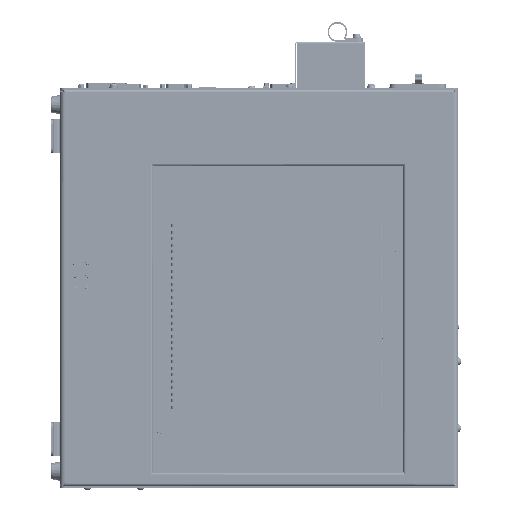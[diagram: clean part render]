
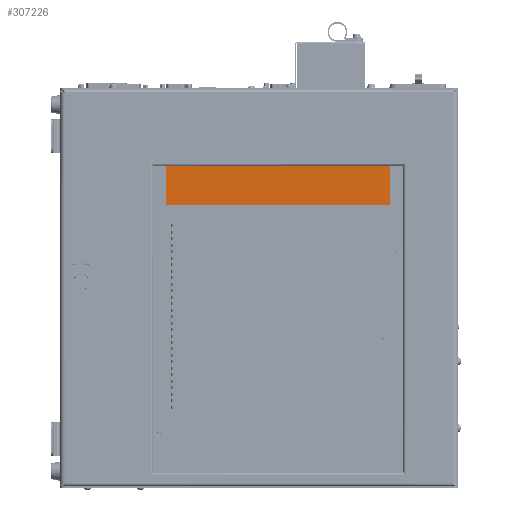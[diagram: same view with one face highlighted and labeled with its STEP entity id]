
A CAD part, front view. The second image highlights one B-rep face of the part: STEP entity #307226.
In plain terms, the highlighted planar face has unit normal (0, -1, 0) as drawn and (0, 0, -1) by its records, which use the part's own axes.
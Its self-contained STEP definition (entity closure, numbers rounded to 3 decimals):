
#2007 = DIRECTION ( 'NONE',  ( 0., 1., 0. ) ) ;
#3105 = DIRECTION ( 'NONE',  ( 0., 0., 1. ) ) ;
#6974 = CARTESIAN_POINT ( 'NONE',  ( -19.5, -115.5, 0. ) ) ;
#12219 = AXIS2_PLACEMENT_3D ( 'NONE', #364956, #50010, #291930 ) ;
#14323 = CARTESIAN_POINT ( 'NONE',  ( 0., 112., 0. ) ) ;
#14955 = AXIS2_PLACEMENT_3D ( 'NONE', #359759, #88997, #83856 ) ;
#19246 = EDGE_CURVE ( 'NONE', #127807, #108560, #496817, .T. ) ;
#20903 = AXIS2_PLACEMENT_3D ( 'NONE', #317939, #3105, #78593 ) ;
#21769 = EDGE_CURVE ( 'NONE', #374704, #406667, #376104, .T. ) ;
#24377 = EDGE_CURVE ( 'NONE', #374203, #184199, #61242, .T. ) ;
#33392 = EDGE_CURVE ( 'NONE', #495689, #406667, #55827, .T. ) ;
#35580 = EDGE_LOOP ( 'NONE', ( #62934, #365722 ) ) ;
#42108 = CARTESIAN_POINT ( 'NONE',  ( 21.5, 115.5, 0. ) ) ;
#43441 = CARTESIAN_POINT ( 'NONE',  ( 2.5, 112., 0. ) ) ;
#50010 = DIRECTION ( 'NONE',  ( 0., 0., 1. ) ) ;
#52735 = AXIS2_PLACEMENT_3D ( 'NONE', #455241, #179410, #499366 ) ;
#55827 = CIRCLE ( 'NONE', #197009, 2. ) ;
#58613 = DIRECTION ( 'NONE',  ( 0., -1., 0. ) ) ;
#61242 = CIRCLE ( 'NONE', #52735, 2. ) ;
#62934 = ORIENTED_EDGE ( 'NONE', *, *, #202755, .T. ) ;
#67706 = CIRCLE ( 'NONE', #449969, 2.5 ) ;
#72161 = VECTOR ( 'NONE', #2007, 1000. ) ;
#78593 = DIRECTION ( 'NONE',  ( 1., 0., 0. ) ) ;
#79722 = CARTESIAN_POINT ( 'NONE',  ( -19.5, 115.5, 0. ) ) ;
#80788 = VERTEX_POINT ( 'NONE', #331331 ) ;
#83856 = DIRECTION ( 'NONE',  ( 1., 0., 0. ) ) ;
#86714 = CARTESIAN_POINT ( 'NONE',  ( -21.5, 117.5, 0. ) ) ;
#88997 = DIRECTION ( 'NONE',  ( 0., 0., 1. ) ) ;
#89281 = LINE ( 'NONE', #86714, #228522 ) ;
#94850 = DIRECTION ( 'NONE',  ( 1., 0., 0. ) ) ;
#97163 = VERTEX_POINT ( 'NONE', #309711 ) ;
#100196 = CARTESIAN_POINT ( 'NONE',  ( -21.5, 117.5, 0. ) ) ;
#101823 = EDGE_LOOP ( 'NONE', ( #379048, #325564, #172311, #480850, #471693, #345620, #134961, #477949 ) ) ;
#108560 = VERTEX_POINT ( 'NONE', #132537 ) ;
#112496 = ORIENTED_EDGE ( 'NONE', *, *, #313665, .T. ) ;
#124253 = CARTESIAN_POINT ( 'NONE',  ( -21.5, 115.5, 0. ) ) ;
#125708 = DIRECTION ( 'NONE',  ( -1., 0., 0. ) ) ;
#127807 = VERTEX_POINT ( 'NONE', #43441 ) ;
#129312 = CARTESIAN_POINT ( 'NONE',  ( 21.5, 117.5, 0. ) ) ;
#132537 = CARTESIAN_POINT ( 'NONE',  ( -2.5, 112., 0. ) ) ;
#132591 = VECTOR ( 'NONE', #94850, 1000. ) ;
#134961 = ORIENTED_EDGE ( 'NONE', *, *, #354302, .F. ) ;
#168195 = DIRECTION ( 'NONE',  ( 1., 0., 0. ) ) ;
#170551 = DIRECTION ( 'NONE',  ( 0., 0., -1. ) ) ;
#172311 = ORIENTED_EDGE ( 'NONE', *, *, #240283, .F. ) ;
#177805 = CARTESIAN_POINT ( 'NONE',  ( -19.5, -117.5, 0. ) ) ;
#179410 = DIRECTION ( 'NONE',  ( 0., 0., -1. ) ) ;
#184199 = VERTEX_POINT ( 'NONE', #312089 ) ;
#193027 = CARTESIAN_POINT ( 'NONE',  ( 0., -112., 0. ) ) ;
#197009 = AXIS2_PLACEMENT_3D ( 'NONE', #6974, #480567, #168195 ) ;
#197833 = AXIS2_PLACEMENT_3D ( 'NONE', #14323, #256257, #417504 ) ;
#202755 = EDGE_CURVE ( 'NONE', #108560, #127807, #247485, .T. ) ;
#209072 = AXIS2_PLACEMENT_3D ( 'NONE', #79722, #238447, #506565 ) ;
#217119 = CARTESIAN_POINT ( 'NONE',  ( -21.5, -117.5, 0. ) ) ;
#225298 = CARTESIAN_POINT ( 'NONE',  ( -21.5, -115.5, 0. ) ) ;
#226528 = EDGE_LOOP ( 'NONE', ( #112496, #474476 ) ) ;
#228522 = VECTOR ( 'NONE', #125708, 1000. ) ;
#230879 = CARTESIAN_POINT ( 'NONE',  ( -19.5, 117.5, 0. ) ) ;
#238447 = DIRECTION ( 'NONE',  ( 0., 0., -1. ) ) ;
#240283 = EDGE_CURVE ( 'NONE', #495689, #184199, #461603, .T. ) ;
#246074 = CARTESIAN_POINT ( 'NONE',  ( 19.5, 115.5, 0. ) ) ;
#247485 = CIRCLE ( 'NONE', #14955, 2.5 ) ;
#256257 = DIRECTION ( 'NONE',  ( 0., 0., 1. ) ) ;
#271234 = FACE_OUTER_BOUND ( 'NONE', #101823, .T. ) ;
#276333 = PLANE ( 'NONE',  #20903 ) ;
#278920 = FACE_BOUND ( 'NONE', #35580, .T. ) ;
#291930 = DIRECTION ( 'NONE',  ( 1., 0., 0. ) ) ;
#307226 = ADVANCED_FACE ( 'NONE', ( #396051, #278920, #271234 ), #276333, .F. ) ;
#309711 = CARTESIAN_POINT ( 'NONE',  ( 2.5, -112., 0. ) ) ;
#312089 = CARTESIAN_POINT ( 'NONE',  ( 19.5, -117.5, 0. ) ) ;
#313665 = EDGE_CURVE ( 'NONE', #402237, #97163, #67706, .T. ) ;
#317939 = CARTESIAN_POINT ( 'NONE',  ( 0., 0., 0. ) ) ;
#325564 = ORIENTED_EDGE ( 'NONE', *, *, #24377, .T. ) ;
#331331 = CARTESIAN_POINT ( 'NONE',  ( 19.5, 117.5, 0. ) ) ;
#345620 = ORIENTED_EDGE ( 'NONE', *, *, #446514, .T. ) ;
#351782 = DIRECTION ( 'NONE',  ( 1., 0., 0. ) ) ;
#354302 = EDGE_CURVE ( 'NONE', #80788, #508951, #89281, .T. ) ;
#359759 = CARTESIAN_POINT ( 'NONE',  ( 0., 112., 0. ) ) ;
#360644 = EDGE_CURVE ( 'NONE', #97163, #402237, #452387, .T. ) ;
#364956 = CARTESIAN_POINT ( 'NONE',  ( 0., -112., 0. ) ) ;
#365722 = ORIENTED_EDGE ( 'NONE', *, *, #19246, .T. ) ;
#366170 = LINE ( 'NONE', #129312, #72161 ) ;
#366657 = VECTOR ( 'NONE', #58613, 1000. ) ;
#374203 = VERTEX_POINT ( 'NONE', #458354 ) ;
#374704 = VERTEX_POINT ( 'NONE', #124253 ) ;
#376104 = LINE ( 'NONE', #100196, #366657 ) ;
#379048 = ORIENTED_EDGE ( 'NONE', *, *, #491679, .F. ) ;
#396051 = FACE_BOUND ( 'NONE', #226528, .T. ) ;
#401615 = CARTESIAN_POINT ( 'NONE',  ( -2.5, -112., 0. ) ) ;
#402237 = VERTEX_POINT ( 'NONE', #401615 ) ;
#406667 = VERTEX_POINT ( 'NONE', #225298 ) ;
#412075 = AXIS2_PLACEMENT_3D ( 'NONE', #246074, #170551, #488001 ) ;
#417504 = DIRECTION ( 'NONE',  ( 1., 0., 0. ) ) ;
#420229 = CIRCLE ( 'NONE', #412075, 2. ) ;
#433558 = VERTEX_POINT ( 'NONE', #42108 ) ;
#446514 = EDGE_CURVE ( 'NONE', #374704, #508951, #466467, .T. ) ;
#449969 = AXIS2_PLACEMENT_3D ( 'NONE', #193027, #513022, #351782 ) ;
#452387 = CIRCLE ( 'NONE', #12219, 2.5 ) ;
#455241 = CARTESIAN_POINT ( 'NONE',  ( 19.5, -115.5, 0. ) ) ;
#458354 = CARTESIAN_POINT ( 'NONE',  ( 21.5, -115.5, 0. ) ) ;
#461603 = LINE ( 'NONE', #217119, #132591 ) ;
#466467 = CIRCLE ( 'NONE', #209072, 2. ) ;
#471693 = ORIENTED_EDGE ( 'NONE', *, *, #21769, .F. ) ;
#472290 = EDGE_CURVE ( 'NONE', #80788, #433558, #420229, .T. ) ;
#474476 = ORIENTED_EDGE ( 'NONE', *, *, #360644, .T. ) ;
#477949 = ORIENTED_EDGE ( 'NONE', *, *, #472290, .T. ) ;
#480567 = DIRECTION ( 'NONE',  ( 0., 0., -1. ) ) ;
#480850 = ORIENTED_EDGE ( 'NONE', *, *, #33392, .T. ) ;
#488001 = DIRECTION ( 'NONE',  ( 1., 0., 0. ) ) ;
#491679 = EDGE_CURVE ( 'NONE', #374203, #433558, #366170, .T. ) ;
#495689 = VERTEX_POINT ( 'NONE', #177805 ) ;
#496817 = CIRCLE ( 'NONE', #197833, 2.5 ) ;
#499366 = DIRECTION ( 'NONE',  ( 1., 0., 0. ) ) ;
#506565 = DIRECTION ( 'NONE',  ( 1., 0., 0. ) ) ;
#508951 = VERTEX_POINT ( 'NONE', #230879 ) ;
#513022 = DIRECTION ( 'NONE',  ( 0., 0., 1. ) ) ;
